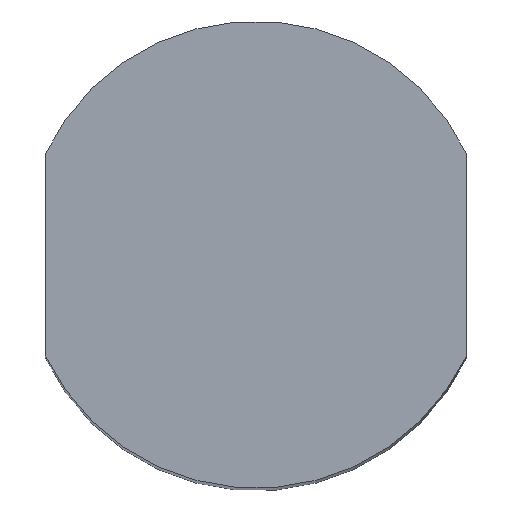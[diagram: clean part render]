
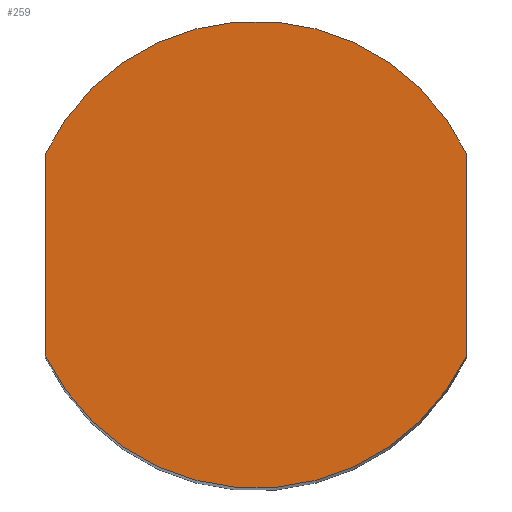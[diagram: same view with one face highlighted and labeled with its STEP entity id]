
A CAD part, top view. The second image highlights one B-rep face of the part: STEP entity #259.
In plain terms, the highlighted planar face has unit normal (0, 0, 1).
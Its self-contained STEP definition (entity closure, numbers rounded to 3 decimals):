
#33 = CYLINDRICAL_SURFACE('',#34,2.99);
#34 = AXIS2_PLACEMENT_3D('',#35,#36,#37);
#35 = CARTESIAN_POINT('',(40.,0.,8.));
#36 = DIRECTION('',(-0.,-0.,-1.));
#37 = DIRECTION('',(1.,0.,0.));
#58 = VERTEX_POINT('',#59);
#59 = CARTESIAN_POINT('',(42.7,1.285,28.));
#72 = PLANE('',#73);
#73 = AXIS2_PLACEMENT_3D('',#74,#75,#76);
#74 = CARTESIAN_POINT('',(42.7,-4.,8.));
#75 = DIRECTION('',(1.,0.,0.));
#76 = DIRECTION('',(0.,0.,1.));
#83 = EDGE_CURVE('',#58,#84,#86,.T.);
#84 = VERTEX_POINT('',#85);
#85 = CARTESIAN_POINT('',(37.3,1.285,28.));
#86 = SURFACE_CURVE('',#87,(#92,#99),.PCURVE_S1.);
#87 = CIRCLE('',#88,2.99);
#88 = AXIS2_PLACEMENT_3D('',#89,#90,#91);
#89 = CARTESIAN_POINT('',(40.,0.,28.));
#90 = DIRECTION('',(0.,0.,1.));
#91 = DIRECTION('',(1.,0.,0.));
#92 = PCURVE('',#33,#93);
#93 = DEFINITIONAL_REPRESENTATION('',(#94),#98);
#94 = LINE('',#95,#96);
#95 = CARTESIAN_POINT('',(-0.,-20.));
#96 = VECTOR('',#97,1.);
#97 = DIRECTION('',(-1.,0.));
#98 = ( GEOMETRIC_REPRESENTATION_CONTEXT(2) 
PARAMETRIC_REPRESENTATION_CONTEXT() REPRESENTATION_CONTEXT('2D SPACE',''
  ) );
#99 = PCURVE('',#100,#105);
#100 = PLANE('',#101);
#101 = AXIS2_PLACEMENT_3D('',#102,#103,#104);
#102 = CARTESIAN_POINT('',(40.,0.,28.));
#103 = DIRECTION('',(0.,0.,1.));
#104 = DIRECTION('',(1.,0.,-0.));
#105 = DEFINITIONAL_REPRESENTATION('',(#106),#110);
#106 = CIRCLE('',#107,2.99);
#107 = AXIS2_PLACEMENT_2D('',#108,#109);
#108 = CARTESIAN_POINT('',(0.,0.));
#109 = DIRECTION('',(1.,0.));
#110 = ( GEOMETRIC_REPRESENTATION_CONTEXT(2) 
PARAMETRIC_REPRESENTATION_CONTEXT() REPRESENTATION_CONTEXT('2D SPACE',''
  ) );
#125 = PLANE('',#126);
#126 = AXIS2_PLACEMENT_3D('',#127,#128,#129);
#127 = CARTESIAN_POINT('',(37.3,-4.,8.));
#128 = DIRECTION('',(1.,0.,0.));
#129 = DIRECTION('',(0.,0.,1.));
#201 = CYLINDRICAL_SURFACE('',#202,2.99);
#202 = AXIS2_PLACEMENT_3D('',#203,#204,#205);
#203 = CARTESIAN_POINT('',(40.,0.,8.));
#204 = DIRECTION('',(-0.,-0.,-1.));
#205 = DIRECTION('',(1.,0.,0.));
#216 = EDGE_CURVE('',#217,#84,#219,.T.);
#217 = VERTEX_POINT('',#218);
#218 = CARTESIAN_POINT('',(37.3,-1.285,28.));
#219 = SURFACE_CURVE('',#220,(#224,#231),.PCURVE_S1.);
#220 = LINE('',#221,#222);
#221 = CARTESIAN_POINT('',(37.3,-4.,28.));
#222 = VECTOR('',#223,1.);
#223 = DIRECTION('',(0.,1.,0.));
#224 = PCURVE('',#125,#225);
#225 = DEFINITIONAL_REPRESENTATION('',(#226),#230);
#226 = LINE('',#227,#228);
#227 = CARTESIAN_POINT('',(20.,0.));
#228 = VECTOR('',#229,1.);
#229 = DIRECTION('',(0.,-1.));
#230 = ( GEOMETRIC_REPRESENTATION_CONTEXT(2) 
PARAMETRIC_REPRESENTATION_CONTEXT() REPRESENTATION_CONTEXT('2D SPACE',''
  ) );
#231 = PCURVE('',#100,#232);
#232 = DEFINITIONAL_REPRESENTATION('',(#233),#237);
#233 = LINE('',#234,#235);
#234 = CARTESIAN_POINT('',(-2.7,-4.));
#235 = VECTOR('',#236,1.);
#236 = DIRECTION('',(0.,1.));
#237 = ( GEOMETRIC_REPRESENTATION_CONTEXT(2) 
PARAMETRIC_REPRESENTATION_CONTEXT() REPRESENTATION_CONTEXT('2D SPACE',''
  ) );
#259 = ADVANCED_FACE('',(#260),#100,.T.);
#260 = FACE_BOUND('',#261,.T.);
#261 = EDGE_LOOP('',(#262,#285,#286,#287));
#262 = ORIENTED_EDGE('',*,*,#263,.T.);
#263 = EDGE_CURVE('',#264,#58,#266,.T.);
#264 = VERTEX_POINT('',#265);
#265 = CARTESIAN_POINT('',(42.7,-1.285,28.));
#266 = SURFACE_CURVE('',#267,(#271,#278),.PCURVE_S1.);
#267 = LINE('',#268,#269);
#268 = CARTESIAN_POINT('',(42.7,-4.,28.));
#269 = VECTOR('',#270,1.);
#270 = DIRECTION('',(0.,1.,0.));
#271 = PCURVE('',#100,#272);
#272 = DEFINITIONAL_REPRESENTATION('',(#273),#277);
#273 = LINE('',#274,#275);
#274 = CARTESIAN_POINT('',(2.7,-4.));
#275 = VECTOR('',#276,1.);
#276 = DIRECTION('',(0.,1.));
#277 = ( GEOMETRIC_REPRESENTATION_CONTEXT(2) 
PARAMETRIC_REPRESENTATION_CONTEXT() REPRESENTATION_CONTEXT('2D SPACE',''
  ) );
#278 = PCURVE('',#72,#279);
#279 = DEFINITIONAL_REPRESENTATION('',(#280),#284);
#280 = LINE('',#281,#282);
#281 = CARTESIAN_POINT('',(20.,0.));
#282 = VECTOR('',#283,1.);
#283 = DIRECTION('',(0.,-1.));
#284 = ( GEOMETRIC_REPRESENTATION_CONTEXT(2) 
PARAMETRIC_REPRESENTATION_CONTEXT() REPRESENTATION_CONTEXT('2D SPACE',''
  ) );
#285 = ORIENTED_EDGE('',*,*,#83,.T.);
#286 = ORIENTED_EDGE('',*,*,#216,.F.);
#287 = ORIENTED_EDGE('',*,*,#288,.T.);
#288 = EDGE_CURVE('',#217,#264,#289,.T.);
#289 = SURFACE_CURVE('',#290,(#295,#302),.PCURVE_S1.);
#290 = CIRCLE('',#291,2.99);
#291 = AXIS2_PLACEMENT_3D('',#292,#293,#294);
#292 = CARTESIAN_POINT('',(40.,0.,28.));
#293 = DIRECTION('',(0.,0.,1.));
#294 = DIRECTION('',(1.,0.,0.));
#295 = PCURVE('',#100,#296);
#296 = DEFINITIONAL_REPRESENTATION('',(#297),#301);
#297 = CIRCLE('',#298,2.99);
#298 = AXIS2_PLACEMENT_2D('',#299,#300);
#299 = CARTESIAN_POINT('',(0.,0.));
#300 = DIRECTION('',(1.,0.));
#301 = ( GEOMETRIC_REPRESENTATION_CONTEXT(2) 
PARAMETRIC_REPRESENTATION_CONTEXT() REPRESENTATION_CONTEXT('2D SPACE',''
  ) );
#302 = PCURVE('',#201,#303);
#303 = DEFINITIONAL_REPRESENTATION('',(#304),#308);
#304 = LINE('',#305,#306);
#305 = CARTESIAN_POINT('',(-0.,-20.));
#306 = VECTOR('',#307,1.);
#307 = DIRECTION('',(-1.,0.));
#308 = ( GEOMETRIC_REPRESENTATION_CONTEXT(2) 
PARAMETRIC_REPRESENTATION_CONTEXT() REPRESENTATION_CONTEXT('2D SPACE',''
  ) );
